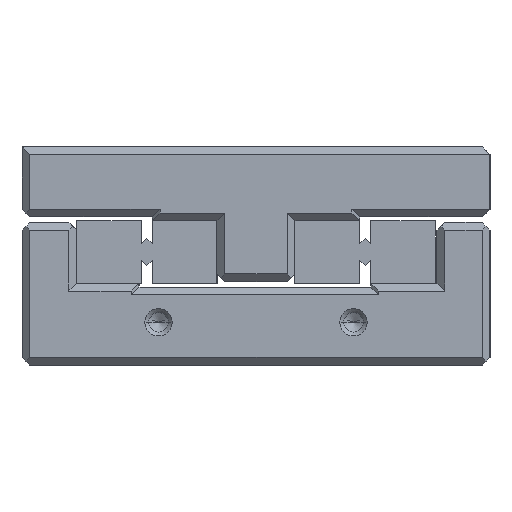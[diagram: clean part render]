
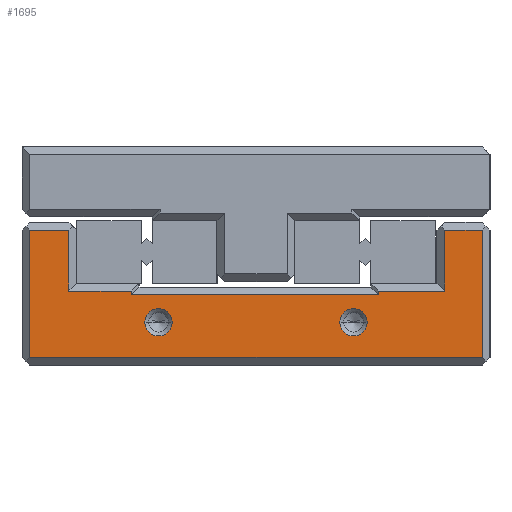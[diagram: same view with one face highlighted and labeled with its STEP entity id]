
A CAD part, left-side view. The second image highlights one B-rep face of the part: STEP entity #1695.
In plain terms, the highlighted planar face has unit normal (-1, 0, 0).
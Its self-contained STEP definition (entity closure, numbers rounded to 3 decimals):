
#1695=ADVANCED_FACE('',(#2900,#2901,#2902),#1974,.T.);
#1974=PLANE('',#10862);
#2546=CIRCLE('',#10858,1.75);
#2547=CIRCLE('',#10859,1.75);
#2548=CIRCLE('',#10860,1.75);
#2549=CIRCLE('',#10861,1.75);
#2900=FACE_BOUND('',#3537,.T.);
#2901=FACE_BOUND('',#3538,.T.);
#2902=FACE_BOUND('',#3539,.T.);
#3537=EDGE_LOOP('',(#5765,#5766,#5767,#5768,#5769,#5770,#5771,#5772,#5773,
#5774,#5775,#5776));
#3538=EDGE_LOOP('',(#5777,#5778));
#3539=EDGE_LOOP('',(#5779,#5780));
#5765=ORIENTED_EDGE('',*,*,#8457,.T.);
#5766=ORIENTED_EDGE('',*,*,#8458,.T.);
#5767=ORIENTED_EDGE('',*,*,#8459,.T.);
#5768=ORIENTED_EDGE('',*,*,#8456,.T.);
#5769=ORIENTED_EDGE('',*,*,#8460,.T.);
#5770=ORIENTED_EDGE('',*,*,#8461,.T.);
#5771=ORIENTED_EDGE('',*,*,#8462,.F.);
#5772=ORIENTED_EDGE('',*,*,#8463,.T.);
#5773=ORIENTED_EDGE('',*,*,#8464,.F.);
#5774=ORIENTED_EDGE('',*,*,#8465,.F.);
#5775=ORIENTED_EDGE('',*,*,#8466,.F.);
#5776=ORIENTED_EDGE('',*,*,#8467,.T.);
#5777=ORIENTED_EDGE('',*,*,#8468,.T.);
#5778=ORIENTED_EDGE('',*,*,#8469,.T.);
#5779=ORIENTED_EDGE('',*,*,#8470,.T.);
#5780=ORIENTED_EDGE('',*,*,#8471,.T.);
#7205=VERTEX_POINT('',#16876);
#7206=VERTEX_POINT('',#16878);
#7207=VERTEX_POINT('',#16882);
#7208=VERTEX_POINT('',#16883);
#7209=VERTEX_POINT('',#16885);
#7210=VERTEX_POINT('',#16888);
#7211=VERTEX_POINT('',#16890);
#7212=VERTEX_POINT('',#16892);
#7213=VERTEX_POINT('',#16894);
#7214=VERTEX_POINT('',#16896);
#7215=VERTEX_POINT('',#16898);
#7216=VERTEX_POINT('',#16900);
#7217=VERTEX_POINT('',#16903);
#7218=VERTEX_POINT('',#16904);
#7219=VERTEX_POINT('',#16907);
#7220=VERTEX_POINT('',#16908);
#8456=EDGE_CURVE('',#7205,#7206,#9184,.T.);
#8457=EDGE_CURVE('',#7207,#7208,#9185,.T.);
#8458=EDGE_CURVE('',#7208,#7209,#9186,.T.);
#8459=EDGE_CURVE('',#7209,#7205,#9187,.T.);
#8460=EDGE_CURVE('',#7206,#7210,#9188,.T.);
#8461=EDGE_CURVE('',#7210,#7211,#9189,.T.);
#8462=EDGE_CURVE('',#7212,#7211,#9190,.T.);
#8463=EDGE_CURVE('',#7212,#7213,#9191,.T.);
#8464=EDGE_CURVE('',#7214,#7213,#9192,.T.);
#8465=EDGE_CURVE('',#7215,#7214,#9193,.T.);
#8466=EDGE_CURVE('',#7216,#7215,#9194,.T.);
#8467=EDGE_CURVE('',#7216,#7207,#9195,.T.);
#8468=EDGE_CURVE('',#7217,#7218,#2546,.T.);
#8469=EDGE_CURVE('',#7218,#7217,#2547,.T.);
#8470=EDGE_CURVE('',#7219,#7220,#2548,.T.);
#8471=EDGE_CURVE('',#7220,#7219,#2549,.T.);
#9184=LINE('',#16879,#9720);
#9185=LINE('',#16881,#9721);
#9186=LINE('',#16884,#9722);
#9187=LINE('',#16886,#9723);
#9188=LINE('',#16887,#9724);
#9189=LINE('',#16889,#9725);
#9190=LINE('',#16891,#9726);
#9191=LINE('',#16893,#9727);
#9192=LINE('',#16895,#9728);
#9193=LINE('',#16897,#9729);
#9194=LINE('',#16899,#9730);
#9195=LINE('',#16901,#9731);
#9720=VECTOR('',#13440,1.);
#9721=VECTOR('',#13443,1.);
#9722=VECTOR('',#13444,1.);
#9723=VECTOR('',#13445,1.);
#9724=VECTOR('',#13446,1.);
#9725=VECTOR('',#13447,1.);
#9726=VECTOR('',#13448,1.);
#9727=VECTOR('',#13449,1.);
#9728=VECTOR('',#13450,1.);
#9729=VECTOR('',#13451,1.);
#9730=VECTOR('',#13452,1.);
#9731=VECTOR('',#13453,1.);
#10858=AXIS2_PLACEMENT_3D('',#16902,#13454,#13455);
#10859=AXIS2_PLACEMENT_3D('',#16905,#13456,#13457);
#10860=AXIS2_PLACEMENT_3D('',#16906,#13458,#13459);
#10861=AXIS2_PLACEMENT_3D('',#16909,#13460,#13461);
#10862=AXIS2_PLACEMENT_3D('',#16910,#13462,#13463);
#13440=DIRECTION('',(0.,0.,1.));
#13443=DIRECTION('',(0.,1.,0.));
#13444=DIRECTION('',(0.,0.,-1.));
#13445=DIRECTION('',(0.,1.,0.));
#13446=DIRECTION('',(0.,1.,0.));
#13447=DIRECTION('',(0.,0.,1.));
#13448=DIRECTION('',(0.,-1.,0.));
#13449=DIRECTION('',(0.,0.,-1.));
#13450=DIRECTION('',(0.,1.,0.));
#13451=DIRECTION('',(0.,0.,-1.));
#13452=DIRECTION('',(0.,-1.,0.));
#13453=DIRECTION('',(0.,0.,-1.));
#13454=DIRECTION('',(1.,0.,0.));
#13455=DIRECTION('',(0.,0.,1.));
#13456=DIRECTION('',(1.,0.,0.));
#13457=DIRECTION('',(0.,0.,1.));
#13458=DIRECTION('',(1.,0.,0.));
#13459=DIRECTION('',(0.,0.,1.));
#13460=DIRECTION('',(1.,0.,0.));
#13461=DIRECTION('',(0.,0.,1.));
#13462=DIRECTION('',(-1.,0.,0.));
#13463=DIRECTION('',(0.,1.,0.));
#16876=CARTESIAN_POINT('',(-90.,16.,9.));
#16878=CARTESIAN_POINT('',(-90.,16.,9.5));
#16879=CARTESIAN_POINT('',(-90.,16.,9.));
#16881=CARTESIAN_POINT('',(-90.,-24.2,9.5));
#16882=CARTESIAN_POINT('',(-90.,-24.2,9.5));
#16883=CARTESIAN_POINT('',(-90.,-15.7,9.5));
#16884=CARTESIAN_POINT('',(-90.,-15.7,9.5));
#16885=CARTESIAN_POINT('',(-90.,-15.7,9.));
#16886=CARTESIAN_POINT('',(-90.,-15.7,9.));
#16887=CARTESIAN_POINT('',(-90.,16.,9.5));
#16888=CARTESIAN_POINT('',(-90.,24.,9.5));
#16889=CARTESIAN_POINT('',(-90.,24.,9.5));
#16890=CARTESIAN_POINT('',(-90.,24.,17.3));
#16891=CARTESIAN_POINT('',(-90.,29.,17.3));
#16892=CARTESIAN_POINT('',(-90.,29.,17.3));
#16893=CARTESIAN_POINT('',(-90.,29.,17.3));
#16894=CARTESIAN_POINT('',(-90.,29.,1.));
#16895=CARTESIAN_POINT('',(-90.,-29.,1.));
#16896=CARTESIAN_POINT('',(-90.,-29.,1.));
#16897=CARTESIAN_POINT('',(-90.,-29.,17.3));
#16898=CARTESIAN_POINT('',(-90.,-29.,17.3));
#16899=CARTESIAN_POINT('',(-90.,-24.2,17.3));
#16900=CARTESIAN_POINT('',(-90.,-24.2,17.3));
#16901=CARTESIAN_POINT('',(-90.,-24.2,17.3));
#16902=CARTESIAN_POINT('',(-90.,12.5,5.5));
#16903=CARTESIAN_POINT('',(-90.,14.25,5.5));
#16904=CARTESIAN_POINT('',(-90.,10.75,5.5));
#16905=CARTESIAN_POINT('',(-90.,12.5,5.5));
#16906=CARTESIAN_POINT('',(-90.,-12.5,5.5));
#16907=CARTESIAN_POINT('',(-90.,-10.75,5.5));
#16908=CARTESIAN_POINT('',(-90.,-14.25,5.5));
#16909=CARTESIAN_POINT('',(-90.,-12.5,5.5));
#16910=CARTESIAN_POINT('',(-90.,30.,0.));
